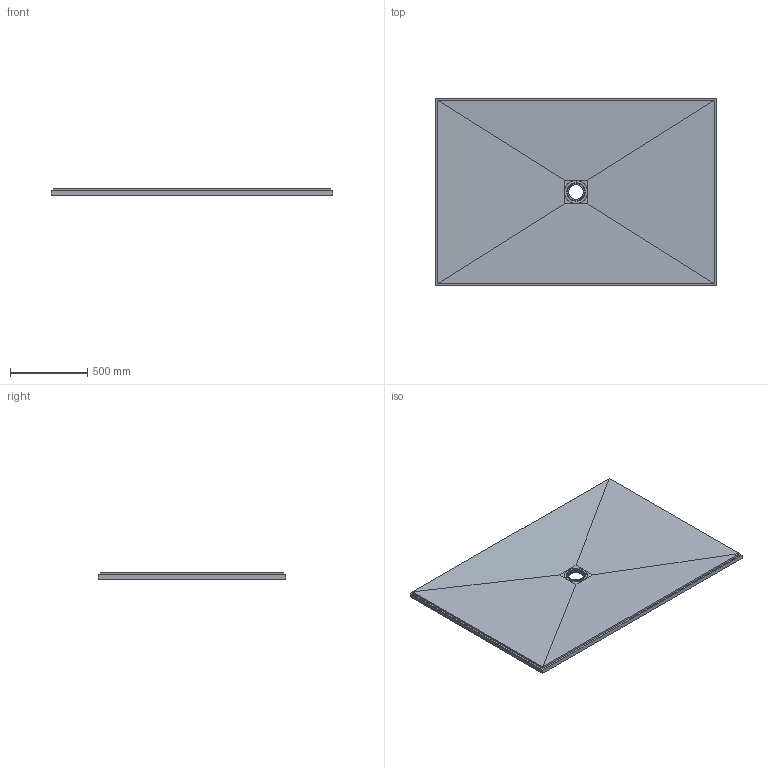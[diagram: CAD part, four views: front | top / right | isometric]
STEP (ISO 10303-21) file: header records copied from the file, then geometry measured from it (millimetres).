
FILE_DESCRIPTION(/* description */ ('Fertigteil'),/* implementation_level */ '2;1');
FILE_NAME(/* name */ 'C:\Users\fuser-vault-job\AppData\Local\Temp\MuM_ssazc53e.rhj\D-000001991.iam_.step',/* time_stamp */ '2022-07-14T08:23:02+02:00',/* author */ ('ds'),/* organization */ (''),/* preprocessor_version */ 'ST-DEVELOPER v18.1',/* originating_system */ 'Autodesk Inventor 2020',/* authorisation */ '');
FILE_SCHEMA (('AUTOMOTIVE_DESIGN { 1 0 10303 214 3 1 1 }'));
Products named in the file (3): 073740053; 073740053_1; DD0000003
Assembly tree (2 placements, depth 2):
  073740053
    073740053_1
    DD0000003
Bounding box: 1828 x 1219 x 40 mm (x, y, z)
Volume: 73897708.1 mm3; surface area: 4725047.4 mm2
Topology: 2 solids, 2 shells, 743 faces, 2189 edges, 1474 vertices
Faces by surface type: bspline 372, torus 115, cone 78, cylinder 76, plane 68, sphere 34
Full cylindrical faces by diameter (mm): 6 x3, 151 x1
Entity records: 63140 total; most frequent: CARTESIAN_POINT 44892, ORIENTED_EDGE 4322, DIRECTION 3297, EDGE_CURVE 2161, VERTEX_POINT 1456, AXIS2_PLACEMENT_3D 1338, CIRCLE 812, EDGE_LOOP 803
